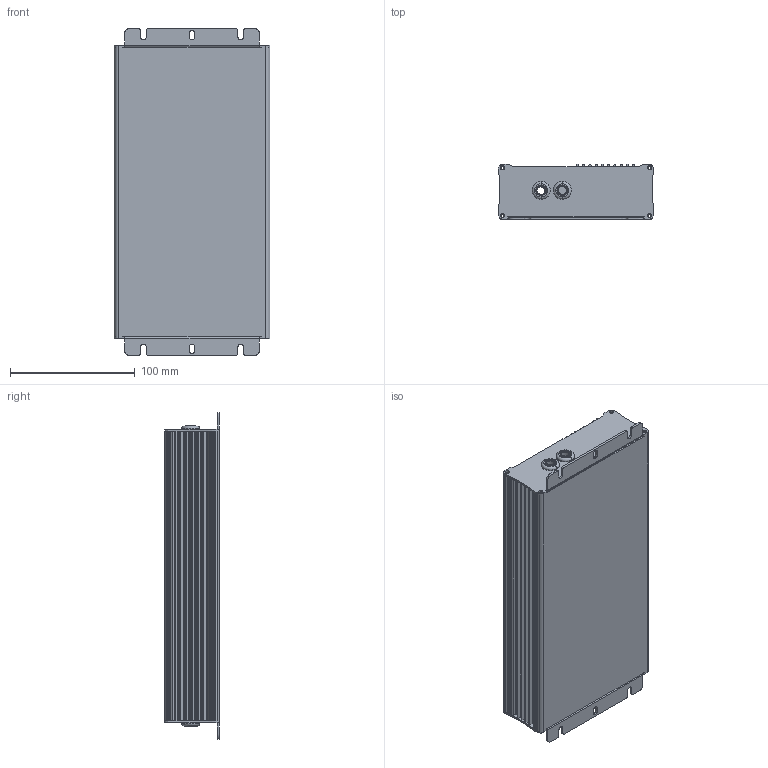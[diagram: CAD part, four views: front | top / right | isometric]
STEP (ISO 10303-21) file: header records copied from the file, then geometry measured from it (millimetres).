
FILE_DESCRIPTION(('Creo Elements/Direct Modeling STEP Export'),'2;1');
FILE_NAME('HEP-480-BTYPE.stp','2017-07-17T13:54:30',(''),(''),'PTC Creo Elements/Direct Modeling STEP processor for AP214 (Solid Model)','PTC Creo Elements/Direct Modeling 19.0 09-May-2014 (C) Parametric Technology GmbH','');
FILE_SCHEMA(('AUTOMOTIVE_DESIGN { 1 0 10303 214 1 1 1 1 }'));
Length unit declared in the file: millimetre
Products named in the file (2): HEP-480-BTYPE
Assembly tree (1 placements, depth 2):
  HEP-480-BTYPE
    HEP-480-BTYPE
Bounding box: 125.02 x 43.8 x 262 mm (x, y, z)
Volume: 226622.7 mm3; surface area: 212346.6 mm2
Topology: 1 solids, 4 shells, 592 faces, 1598 edges, 1032 vertices
Faces by surface type: plane 291, cylinder 245, cone 32, torus 24
Entity records: 17497 total; most frequent: ORIENTED_EDGE 3196, DIRECTION 2970, CARTESIAN_POINT 2948, EDGE_CURVE 1598, AXIS2_PLACEMENT_3D 1054, VERTEX_POINT 1032, VECTOR 862, LINE 862
